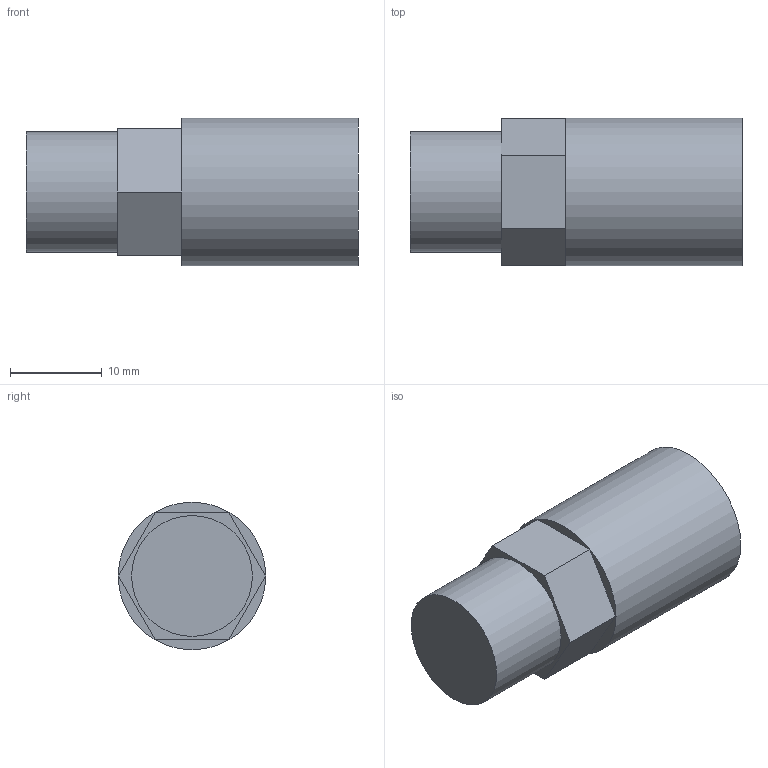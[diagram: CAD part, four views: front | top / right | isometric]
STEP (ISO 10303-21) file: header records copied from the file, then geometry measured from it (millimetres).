
FILE_DESCRIPTION (( 'STEP AP214' ), '1' );
FILE_NAME ('muffler.STEP', '2013-04-24T15:03:05', ( '' ), ( '' ), 'SwSTEP 2.0', 'SolidWorks 2012', '' );
FILE_SCHEMA (( 'AUTOMOTIVE_DESIGN' ));
Length unit declared in the file: inch
Products named in the file (1): muffler
Bounding box: 36.22 x 16.1 x 16.1 mm (x, y, z)
Volume: 6448 mm3; surface area: 2130.5 mm2
Topology: 1 solids, 1 shells, 12 faces, 24 edges, 16 vertices
Faces by surface type: plane 10, cylinder 2
Full cylindrical faces by diameter (mm): 13.183 x1, 16.104 x1
Entity records: 368 total; most frequent: DIRECTION 52, CARTESIAN_POINT 51, ORIENTED_EDGE 44, EDGE_CURVE 22, LINE 18, VECTOR 18, AXIS2_PLACEMENT_3D 17, VERTEX_POINT 16
